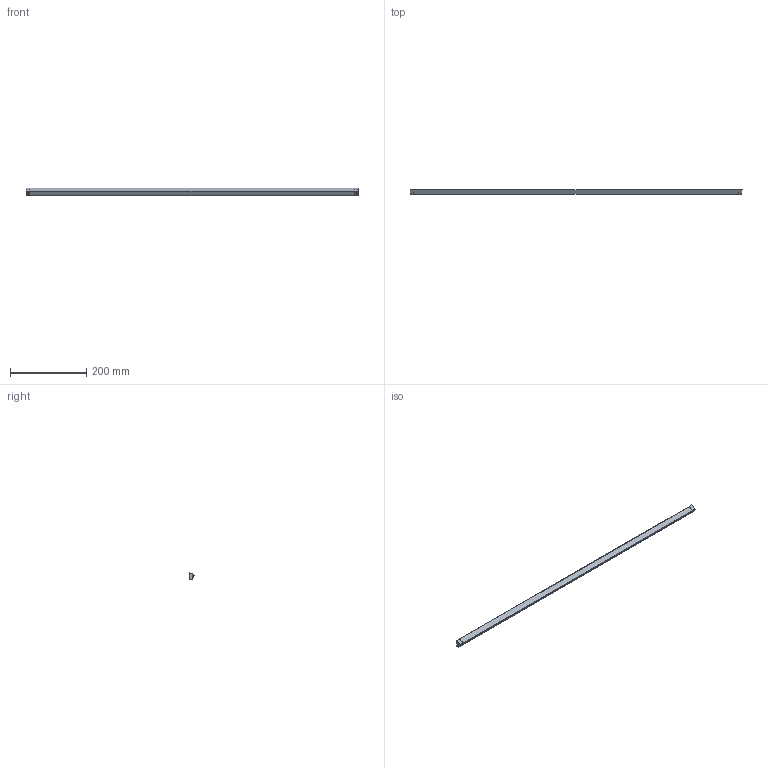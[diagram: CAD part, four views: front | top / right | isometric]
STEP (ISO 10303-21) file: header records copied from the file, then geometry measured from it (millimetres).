
FILE_DESCRIPTION(/* description */ (''),/* implementation_level */ '2;1');
FILE_NAME(/* name */ '6112511_Profil_DerbyII_sldprt.stp',/* time_stamp */ '2019-06-11T08:33:29+02:00',/* author */ (''),/* organization */ (''),/* preprocessor_version */ 'ST-DEVELOPER v16.7',/* originating_system */ 'SIEMENS PLM Software NX 12.0',/* authorisation */ '');
FILE_SCHEMA (('AUTOMOTIVE_DESIGN { 1 0 10303 214 3 1 1 1 }'));
Length unit declared in the file: millimetre
Products named in the file (1): p.sc242CC721x3fk
Bounding box: 870 x 12.83 x 19.36 mm (x, y, z)
Volume: 135928 mm3; surface area: 47092.2 mm2
Topology: 1 solids, 1 shells, 74 faces, 216 edges, 142 vertices
Faces by surface type: plane 36, cylinder 28, bspline 8, cone 2
Full cylindrical faces by diameter (mm): 3.4 x2
Entity records: 2801 total; most frequent: CARTESIAN_POINT 867, ORIENTED_EDGE 416, DIRECTION 370, EDGE_CURVE 208, VERTEX_POINT 140, AXIS2_PLACEMENT_3D 133, LINE 104, VECTOR 104
